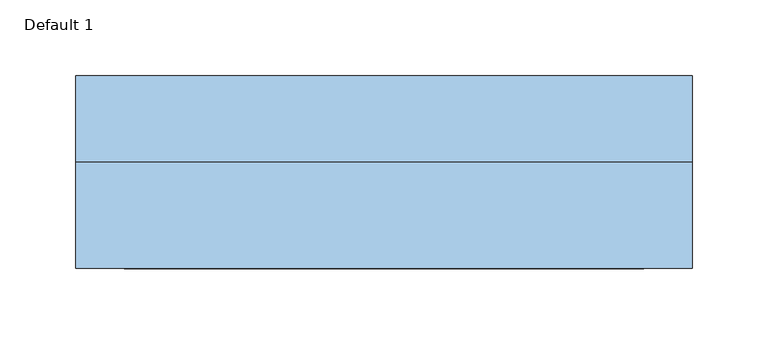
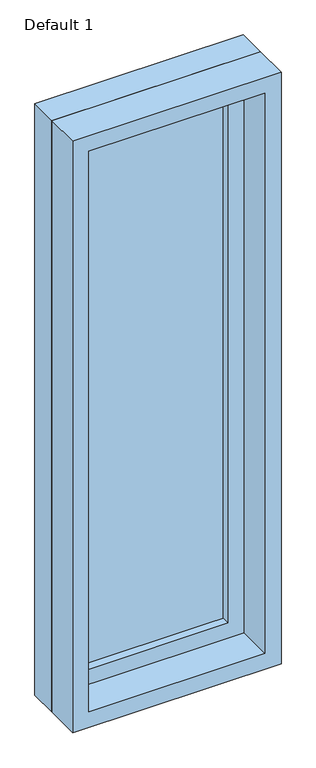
"""IFC4 building model written with IfcOpenShell, lengths in millimetres: window geometry, Planitar-Fixed : Default 1."""

from ifc_helpers import new_model, si_unit, frame, origin, place, context, project, spatial, polyline, outline, extrude, source, transform, mapped, element, save


def default_1_4d59abb0(model_context):
    return source(origin(), model_context, "Body", "SweptSolid", [
        extrude(outline(polyline([(2114.6, -184.2), (933.4, -184.2), (933.4, 184.2), (2114.6, 184.2), (2114.6, -184.2)]), holes=[polyline([(2070.6, -140.2), (2070.6, 140.2), (977.4, 140.2), (977.4, -140.2), (2070.6, -140.2)])]), frame((0.0, 19.8, 0.0), z_axis=(0.0, 1.0, 0.0), x_axis=(0.0, 0.0, 1.0)), (0.0, 0.0, 1.0), 44.0),
        extrude(outline(polyline([(2133.6, -203.2), (914.4, -203.2), (914.4, 203.2), (2133.6, 203.2), (2133.6, -203.2)]), holes=[polyline([(2114.6, -184.2), (2114.6, 184.2), (933.4, 184.2), (933.4, -184.2), (2114.6, -184.2)])]), frame((0.0, 19.8, 0.0), z_axis=(0.0, 1.0, 0.0), x_axis=(0.0, 0.0, 1.0)), (0.0, 0.0, 1.0), 56.7),
        extrude(outline(polyline([(2133.6, -203.2), (914.4, -203.2), (914.4, 203.2), (2133.6, 203.2), (2133.6, -203.2)]), holes=[polyline([(2101.6, -171.2), (2101.6, 171.2), (946.4, 171.2), (946.4, -171.2), (2101.6, -171.2)])]), frame((0.0, -50.5, 0.0), z_axis=(0.0, 1.0, 0.0), x_axis=(0.0, 0.0, 1.0)), (0.0, 0.0, 1.0), 70.3),
        extrude(outline(polyline([(-140.2, 47.8), (140.2, 47.8), (140.2, 35.8), (-140.2, 35.8), (-140.2, 47.8)])), frame((0.0, 0.0, 977.4), z_axis=(0.0, 0.0, 1.0), x_axis=(1.0, 0.0, 0.0)), (0.0, 0.0, 1.0), 1093.2),
    ])


if __name__ == "__main__":
    model = new_model("IFC4")
    model_context = context("Model", 3, world=origin())
    ifc_project = project(units=[si_unit("LENGTHUNIT", "METRE", prefix="MILLI")], contexts=[model_context])
    site = spatial("IfcSite", under=ifc_project)
    building = spatial("IfcBuilding", under=site)
    placement = place(None, origin())
    default_1_shape = default_1_4d59abb0(model_context)
    element("IfcWindow", 1, ObjectType="Planitar-Fixed : Default 1", at=placement, inside=building, context=model_context, shape_type="MappedRepresentation", body=[
        mapped(default_1_shape, transform((0.0, 0.0, 0.0), x_axis=(1.0, 0.0, 0.0), y_axis=(0.0, 1.0, 0.0), z_axis=(0.0, 0.0, 1.0))),
    ])
    save(model, "model.ifc")
